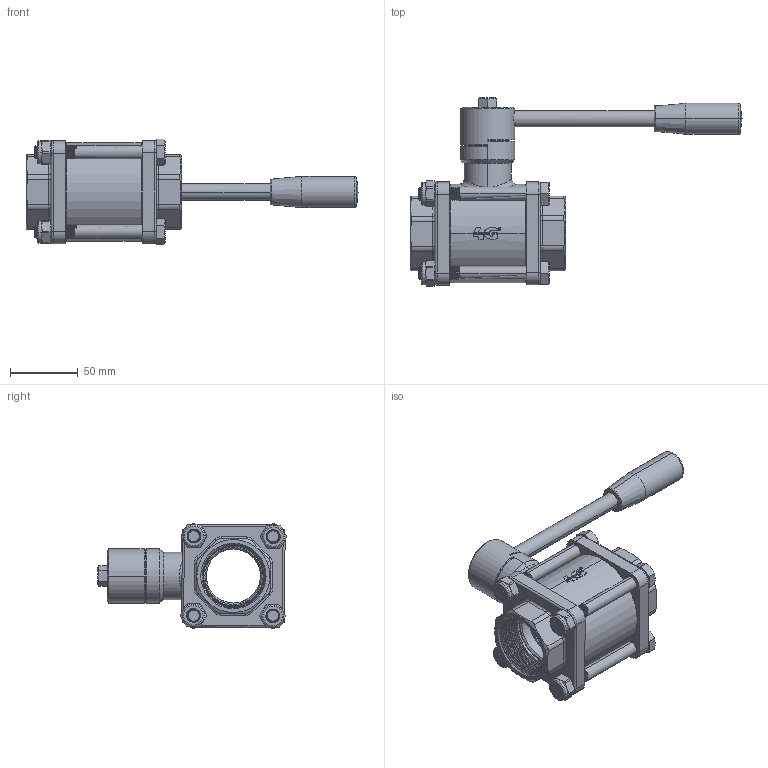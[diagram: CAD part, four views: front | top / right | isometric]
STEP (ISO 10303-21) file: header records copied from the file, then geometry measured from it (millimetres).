
FILE_DESCRIPTION((''),'2;1');
FILE_NAME('50010463410B','2024-04-08T07:54:12',('alfio.taboni'),('CDM Tecnoconsulting'),'CREO PARAMETRIC BY PTC INC, 2023374','CREO PARAMETRIC BY PTC INC, 2023374','');
FILE_SCHEMA(('CONFIG_CONTROL_DESIGN','SHAPE_APPEARANCE_LAYERS_GROUPS'));
Length unit declared in the file: millimetre
Products named in the file (1): 50010463410B
Bounding box: 245.5 x 139.4 x 78.32 mm (x, y, z)
Volume: 392446.1 mm3; surface area: 133646.2 mm2
Topology: 1 solids, 1 shells, 1447 faces, 4121 edges, 2638 vertices
Faces by surface type: plane 470, cylinder 375, bspline 238, cone 197, extrusion 111, torus 50, sphere 6
Entity records: 143667 total; most frequent: CARTESIAN_POINT 94622, ORIENTED_EDGE 8206, DIRECTION 5568, PRESENTATION_STYLE_ASSIGNMENT 4449, STYLED_ITEM 4159, CURVE_STYLE 4158, EDGE_CURVE 4103, VERTEX_POINT 2638
